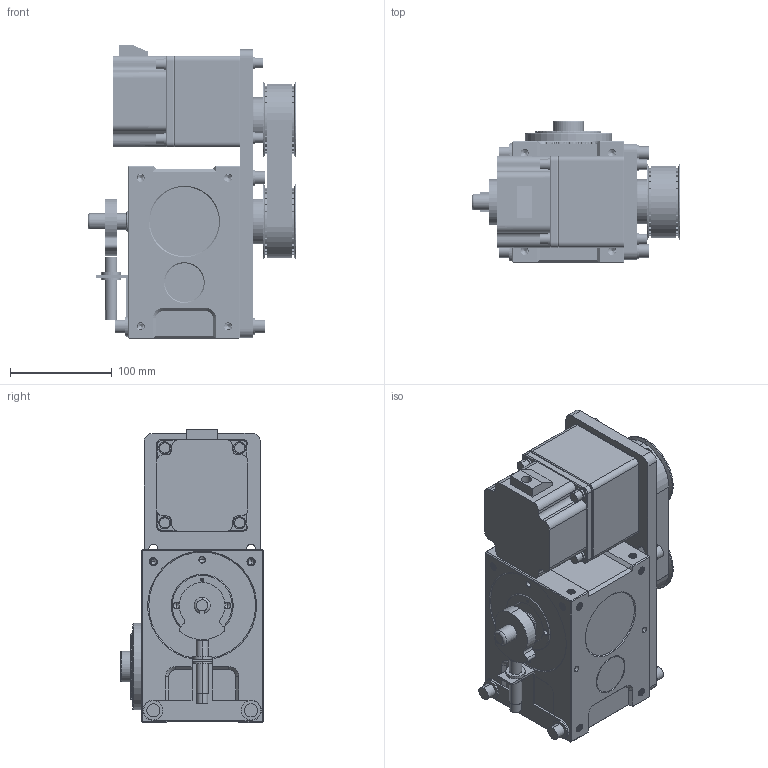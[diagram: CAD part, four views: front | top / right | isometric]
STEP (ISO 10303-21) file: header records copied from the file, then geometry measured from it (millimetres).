
FILE_DESCRIPTION (( 'STEP AP214' ), '1' );
FILE_NAME ('ER-RU60DF英锐凸轮分割器壳体法兰面销孔3D水平带轮式右侧前方ZDWS(电话15062628977)AA.STEP', '2022-07-02T10:43:14', ( '微软用户' ), ( '微软中国' ), 'SwSTEP 2.0', 'SolidWorks 2017', '' );
FILE_SCHEMA (( 'AUTOMOTIVE_DESIGN' ));
Length unit declared in the file: millimetre
Products named in the file (1): ER-RU60DF英锐凸轮分割器壳体法兰面销孔3D水平带轮式右侧前方ZDWS(电话15062628977)AA
Bounding box: 205 x 140 x 288 mm (x, y, z)
Volume: 3710384.6 mm3; surface area: 327747.2 mm2
Topology: 4 solids, 5 shells, 2633 faces, 6723 edges, 4175 vertices
Faces by surface type: cylinder 988, plane 793, bspline 508, cone 309, torus 35
Entity records: 216493 total; most frequent: CARTESIAN_POINT 135673, ORIENTED_EDGE 13274, DIRECTION 9311, EDGE_CURVE 6637, VERTEX_POINT 4175, AXIS2_PLACEMENT_3D 3290, EDGE_LOOP 2850, VECTOR 2731
